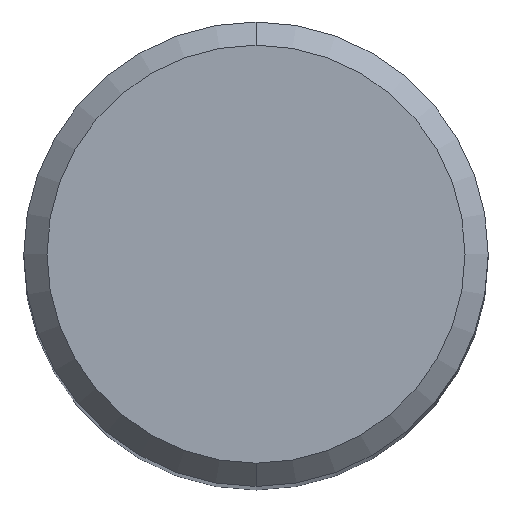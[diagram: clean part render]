
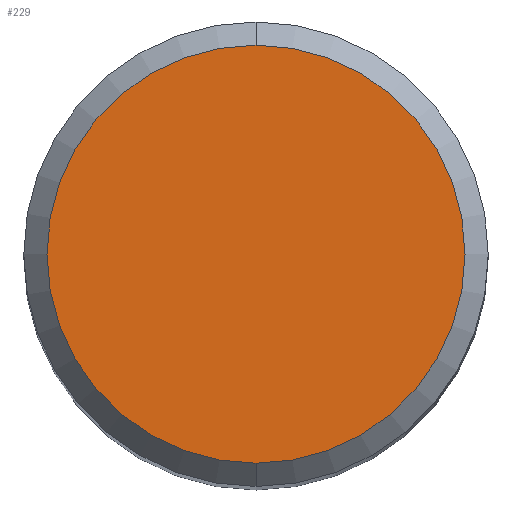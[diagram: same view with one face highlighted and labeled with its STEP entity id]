
A CAD part, top view. The second image highlights one B-rep face of the part: STEP entity #229.
In plain terms, the highlighted planar face has unit normal (0, 0, 1).
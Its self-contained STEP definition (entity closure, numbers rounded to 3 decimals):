
#227=EDGE_CURVE('',#357,#267,#566,.T.);
#229=ADVANCED_FACE('',(#568),#569,.T.);
#267=VERTEX_POINT('',#614);
#337=EDGE_CURVE('',#267,#357,#691,.T.);
#357=VERTEX_POINT('',#713);
#566=CIRCLE('',#1042,7.2);
#568=FACE_OUTER_BOUND('',#1044,.T.);
#569=PLANE('',#1045);
#614=CARTESIAN_POINT('',(0.0,7.2,0.0));
#691=CIRCLE('',#1275,7.2);
#713=CARTESIAN_POINT('',(0.,-7.2,0.0));
#1042=AXIS2_PLACEMENT_3D('',#1659,#1660,#1661);
#1044=EDGE_LOOP('',(#1663,#1664));
#1045=AXIS2_PLACEMENT_3D('',#1665,#1666,#1667);
#1275=AXIS2_PLACEMENT_3D('',#1811,#1812,#1813);
#1659=CARTESIAN_POINT('',(0.0,0.0,0.0));
#1660=DIRECTION('',(0.0,0.0,-1.0));
#1661=DIRECTION('',(0.0,1.0,0.0));
#1663=ORIENTED_EDGE('',*,*,#337,.F.);
#1664=ORIENTED_EDGE('',*,*,#227,.F.);
#1665=CARTESIAN_POINT('',(0.0,3.6,0.0));
#1666=DIRECTION('',(-0.0,0.0,1.0));
#1667=DIRECTION('',(0.0,-1.0,0.0));
#1811=CARTESIAN_POINT('',(0.0,0.0,0.0));
#1812=DIRECTION('',(0.0,0.0,-1.0));
#1813=DIRECTION('',(0.0,1.0,0.0));
